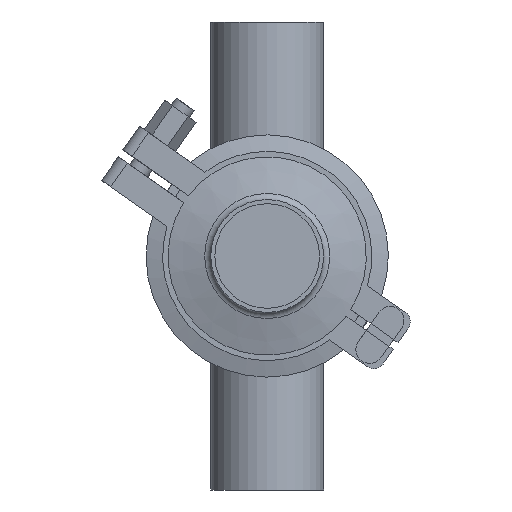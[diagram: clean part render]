
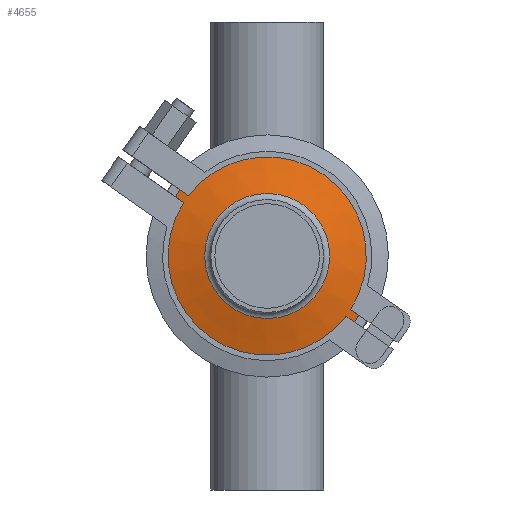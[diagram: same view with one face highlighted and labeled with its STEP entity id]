
A CAD part, front view. The second image highlights one B-rep face of the part: STEP entity #4655.
In plain terms, the highlighted conical face has half-angle 75 degrees and reference radius 39.75 mm.
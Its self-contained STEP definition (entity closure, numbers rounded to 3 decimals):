
#282 = EDGE_LOOP ( 'NONE', ( #4948 ) ) ;
#325 = DIRECTION ( 'NONE',  ( 0., 1., 0. ) ) ;
#518 = CIRCLE ( 'NONE', #12525, 39.75 ) ;
#840 = AXIS2_PLACEMENT_3D ( 'NONE', #9598, #15667, #15207 ) ;
#2169 = FACE_OUTER_BOUND ( 'NONE', #282, .T. ) ;
#3573 = FACE_BOUND ( 'NONE', #18977, .T. ) ;
#4496 = CARTESIAN_POINT ( 'NONE',  ( 0., 5.5, 0. ) ) ;
#4655 = ADVANCED_FACE ( 'NONE', ( #3573, #2169 ), #9679, .T. ) ;
#4948 = ORIENTED_EDGE ( 'NONE', *, *, #14472, .F. ) ;
#5527 = DIRECTION ( 'NONE',  ( 0., 0., 1. ) ) ;
#5755 = CARTESIAN_POINT ( 'NONE',  ( 0., 5.5, 39.75 ) ) ;
#8802 = CARTESIAN_POINT ( 'NONE',  ( 0., 0.938, 22.724 ) ) ;
#9562 = EDGE_CURVE ( 'NONE', #19504, #19504, #16939, .T. ) ;
#9598 = CARTESIAN_POINT ( 'NONE',  ( 0., 5.5, 0. ) ) ;
#9679 = CONICAL_SURFACE ( 'NONE', #840, 39.75, 1.309 ) ;
#10354 = ORIENTED_EDGE ( 'NONE', *, *, #9562, .T. ) ;
#10594 = VERTEX_POINT ( 'NONE', #5755 ) ;
#12525 = AXIS2_PLACEMENT_3D ( 'NONE', #4496, #325, #15011 ) ;
#13047 = DIRECTION ( 'NONE',  ( 0., 1., 0. ) ) ;
#14472 = EDGE_CURVE ( 'NONE', #10594, #10594, #518, .T. ) ;
#15011 = DIRECTION ( 'NONE',  ( 0., 0., 1. ) ) ;
#15207 = DIRECTION ( 'NONE',  ( 0., 0., 1. ) ) ;
#15664 = AXIS2_PLACEMENT_3D ( 'NONE', #15860, #13047, #5527 ) ;
#15667 = DIRECTION ( 'NONE',  ( 0., 1., 0. ) ) ;
#15860 = CARTESIAN_POINT ( 'NONE',  ( 0., 0.938, 0. ) ) ;
#16939 = CIRCLE ( 'NONE', #15664, 22.724 ) ;
#18977 = EDGE_LOOP ( 'NONE', ( #10354 ) ) ;
#19504 = VERTEX_POINT ( 'NONE', #8802 ) ;
